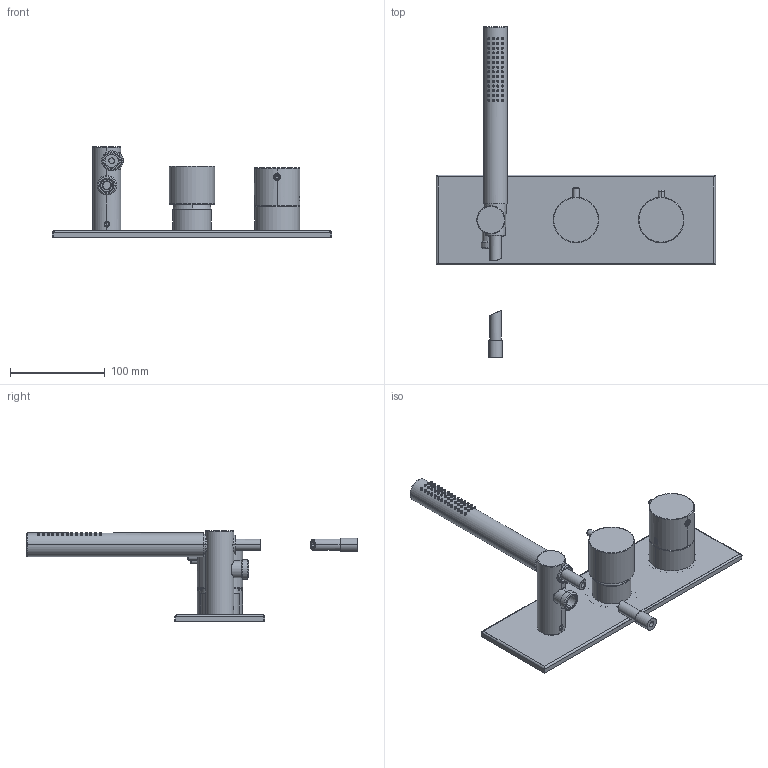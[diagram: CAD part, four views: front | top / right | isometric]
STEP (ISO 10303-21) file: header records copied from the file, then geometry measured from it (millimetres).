
FILE_DESCRIPTION((''),'2;1');
FILE_NAME('F3049NX3_ASM','2020-10-12T11:41:52',('fabriziov'),(''),'CREO PARAMETRIC BY PTC INC, 2020154','CREO PARAMETRIC BY PTC INC, 2020154','');
FILE_SCHEMA(('AUTOMOTIVE_DESIGN { 1 0 10303 214 1 1 1 1 }'));
Products named in the file (26): 4136_AF0; 4840TOR_AF0; 4840MON_AF0_ASM; 5486CRO_BICCHIERE_K35_GRIVORY_AF0; 4618_CAPPUCCIO_ABS_4617_01; KARTDIV_THCR_AF0_ASM; 6339_PORTADOCC_PAN_DOC_REV2; 6845_RAC_G1-2_EXT_DOC_THER_REV1; 5073ACS_OR_12_X_2_AF0; 6845MON_RACCORDO_ATTACCO_FLESSI_ASM; A2287_2_REV1_2019_AF0_ASM; 4549Z_MAN_DEVIA_INC_ZAMA_ROT_R1; 4802_ASTA_MAN_DEV_X_F4000; M0145_RACC_CONICO_1_2_L34_R00; FLESSIBILE_1500_TRECCIA_12_AF1; 6452N_FLES_FC1_2_FC1_2_NEW_AF3_ASM; 4801Z_MAN_THE_F4000_ZAMA_ROT_R2; 6814PASS_BOTT_THERMO_D6_6_L_22; 6815_PERNO_MAN_THERMO_L20P5; 6382_MOLLA_INOX_5X0_5X9_5; 4801ZMON_MAN_THE_F4000_ZAMA_R2_ASM; 7384_BOTTONE_CROMATO_D_5_5; 2034_36INS_ASM; 5008_OR_48_X_2; 6999; F3049NX3_ASM
Assembly tree (25 placements, depth 4):
  F3049NX3_ASM
    4136_AF0
    4840MON_AF0_ASM
      4840TOR_AF0
    KARTDIV_THCR_AF0_ASM
      5486CRO_BICCHIERE_K35_GRIVORY_AF0
      4618_CAPPUCCIO_ABS_4617_01
    A2287_2_REV1_2019_AF0_ASM
      6339_PORTADOCC_PAN_DOC_REV2
      6845MON_RACCORDO_ATTACCO_FLESSI_ASM
        6845_RAC_G1-2_EXT_DOC_THER_REV1
        5073ACS_OR_12_X_2_AF0
    4549Z_MAN_DEVIA_INC_ZAMA_ROT_R1
    4802_ASTA_MAN_DEV_X_F4000
    6452N_FLES_FC1_2_FC1_2_NEW_AF3_ASM
      M0145_RACC_CONICO_1_2_L34_R00
      FLESSIBILE_1500_TRECCIA_12_AF1
    4801ZMON_MAN_THE_F4000_ZAMA_R2_ASM
      4801Z_MAN_THE_F4000_ZAMA_ROT_R2
      6814PASS_BOTT_THERMO_D6_6_L_22
      6815_PERNO_MAN_THERMO_L20P5
      6382_MOLLA_INOX_5X0_5X9_5
    2034_36INS_ASM
      7384_BOTTONE_CROMATO_D_5_5
    5008_OR_48_X_2
    6999
Bounding box: 295 x 349 x 96 mm (x, y, z)
Volume: 250880.3 mm3; surface area: 168729.7 mm2
Topology: 19 solids, 19 shells, 2223 faces, 5672 edges, 3658 vertices
Faces by surface type: plane 1256, cylinder 541, extrusion 158, torus 114, cone 80, bspline 56, sphere 18
Entity records: 111219 total; most frequent: CARTESIAN_POINT 25692, ORIENTED_EDGE 11332, DIRECTION 9646, PRESENTATION_STYLE_ASSIGNMENT 7876, STYLED_ITEM 7876, CURVE_STYLE 5696, EDGE_CURVE 5666, VERTEX_POINT 3658
